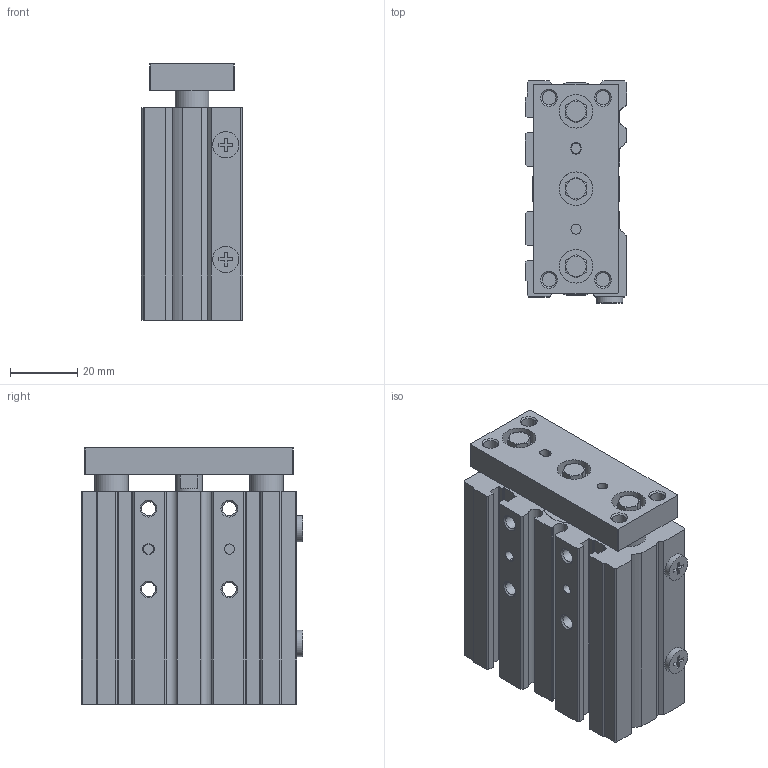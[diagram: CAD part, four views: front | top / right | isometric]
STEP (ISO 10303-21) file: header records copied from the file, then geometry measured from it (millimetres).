
FILE_DESCRIPTION( ( 'STEP AP214' ), '1' );
FILE_NAME( 'C:/Users/emc02044/Desktop/SGL SGM/SGM16X30-S.stp', '2026-07-24T01:03:45', ( 'License CC BY-ND 4.0' ), ( 'CADENAS' ), ' ', 'PARTsolutions', ' ' );
FILE_SCHEMA( ( 'AUTOMOTIVE_DESIGN { 1 0 10303 214 1 1 1 1 }' ) );
Length unit declared in the file: millimetre
Products named in the file (4): SGM16X30X0-S(); _SGM16x30-M(SG:Shaft cylinderM16X30X0-S:with magnet()dummy-0) 0; _SGM16x30-M(-0)-body; _SGM16x30-M(-0)-rod
Assembly tree (3 placements, depth 2):
  SGM16X30X0-S()
    _SGM16x30-M(SG:Shaft cylinderM16X30X0-S:with magnet()dummy-0) 0
    _SGM16x30-M(-0)-body
    _SGM16x30-M(-0)-rod
Bounding box: 30 x 65.8 x 76 mm (x, y, z)
Volume: 104154.2 mm3; surface area: 42096.9 mm2
Topology: 2 solids, 4 shells, 352 faces, 863 edges, 556 vertices
Faces by surface type: plane 186, cylinder 107, cone 59
Full cylindrical faces by diameter (mm): 3 x6, 4.134 x16, 4.2 x4, 7.8 x2, 8 x6, 10 x7, 13 x2, 16 x2, 18 x2
Entity records: 12924 total; most frequent: CARTESIAN_POINT 1977, DIRECTION 1682, ORIENTED_EDGE 1562, EDGE_CURVE 781, AXIS2_PLACEMENT_3D 633, VERTEX_POINT 543, EDGE_LOOP 478, LINE 416
